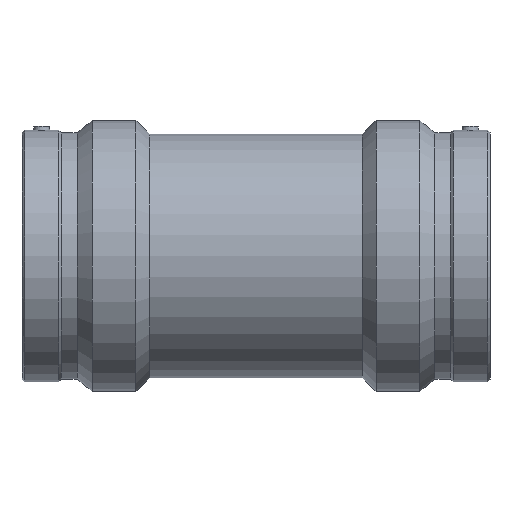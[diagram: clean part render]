
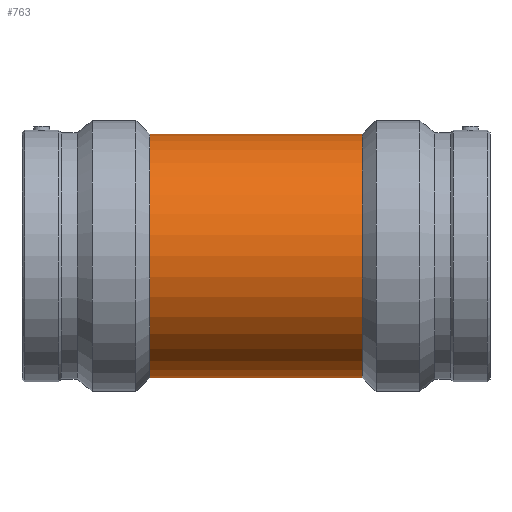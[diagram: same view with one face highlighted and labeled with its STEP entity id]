
A CAD part, top view. The second image highlights one B-rep face of the part: STEP entity #763.
In plain terms, the highlighted cylindrical face has radius 117.45 mm (diameter 234.9 mm), a full revolution.
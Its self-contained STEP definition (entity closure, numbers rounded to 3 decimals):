
#31=B_SPLINE_CURVE_WITH_KNOTS('',3,(#1275,#1276,#1277,#1278,#1279,#1280,
#1281,#1282,#1283,#1284,#1285,#1286,#1287,#1288,#1289,#1290,#1291,#1292),
 .UNSPECIFIED.,.F.,.F.,(4,2,2,2,2,2,2,2,4),(0.,1.676,3.351,
5.027,6.702,8.351,10.,11.649,
13.297),.UNSPECIFIED.);
#32=B_SPLINE_CURVE_WITH_KNOTS('',3,(#1293,#1294,#1295,#1296,#1297,#1298,
#1299,#1300,#1301,#1302,#1303,#1304,#1305,#1306,#1307,#1308,#1309,#1310,
#1311,#1312,#1313,#1314,#1315,#1316,#1317,#1318,#1319,#1320,#1321,#1322,
#1323,#1324,#1325,#1326,#1327,#1328,#1329,#1330,#1331,#1332,#1333,#1334,
#1335,#1336,#1337,#1338,#1339,#1340,#1341,#1342),.UNSPECIFIED.,.F.,.F.,
(4,2,2,2,2,2,2,2,2,2,2,2,2,2,2,2,2,2,2,2,2,2,2,2,4),(13.297,14.946,
16.595,18.243,19.892,21.568,23.243,
24.919,26.595,28.27,29.946,31.622,
33.297,34.946,36.595,38.243,39.892,
41.541,43.189,44.838,46.487,48.162,
49.838,51.514,53.189),.UNSPECIFIED.);
#45=FACE_BOUND('',#142,.T.);
#88=FACE_OUTER_BOUND('',#141,.T.);
#141=EDGE_LOOP('',(#599,#600,#601,#602,#603,#604));
#142=EDGE_LOOP('',(#605,#606));
#183=LINE('',#1515,#216);
#216=VECTOR('',#1059,117.45);
#264=CIRCLE('',#859,117.45);
#265=CIRCLE('',#860,117.45);
#266=CIRCLE('',#862,117.45);
#267=CIRCLE('',#863,117.45);
#311=VERTEX_POINT('',#1273);
#312=VERTEX_POINT('',#1274);
#343=VERTEX_POINT('',#1505);
#344=VERTEX_POINT('',#1506);
#345=VERTEX_POINT('',#1511);
#346=VERTEX_POINT('',#1512);
#392=EDGE_CURVE('',#311,#312,#31,.T.);
#393=EDGE_CURVE('',#312,#311,#32,.T.);
#437=EDGE_CURVE('',#343,#344,#264,.T.);
#438=EDGE_CURVE('',#344,#343,#265,.T.);
#440=EDGE_CURVE('',#345,#346,#266,.T.);
#441=EDGE_CURVE('',#346,#345,#267,.T.);
#442=EDGE_CURVE('',#346,#344,#183,.T.);
#599=ORIENTED_EDGE('',*,*,#440,.F.);
#600=ORIENTED_EDGE('',*,*,#441,.F.);
#601=ORIENTED_EDGE('',*,*,#442,.T.);
#602=ORIENTED_EDGE('',*,*,#438,.T.);
#603=ORIENTED_EDGE('',*,*,#437,.T.);
#604=ORIENTED_EDGE('',*,*,#442,.F.);
#605=ORIENTED_EDGE('',*,*,#392,.T.);
#606=ORIENTED_EDGE('',*,*,#393,.T.);
#729=CYLINDRICAL_SURFACE('',#861,117.45);
#763=ADVANCED_FACE('',(#88,#45),#729,.T.);
#859=AXIS2_PLACEMENT_3D('',#1507,#1048,#1049);
#860=AXIS2_PLACEMENT_3D('',#1508,#1050,#1051);
#861=AXIS2_PLACEMENT_3D('',#1510,#1053,#1054);
#862=AXIS2_PLACEMENT_3D('',#1513,#1055,#1056);
#863=AXIS2_PLACEMENT_3D('',#1514,#1057,#1058);
#1048=DIRECTION('center_axis',(1.,0.,0.));
#1049=DIRECTION('ref_axis',(0.,0.,-1.));
#1050=DIRECTION('center_axis',(1.,0.,0.));
#1051=DIRECTION('ref_axis',(0.,0.,-1.));
#1053=DIRECTION('center_axis',(1.,0.,0.));
#1054=DIRECTION('ref_axis',(0.,1.,0.));
#1055=DIRECTION('center_axis',(1.,0.,0.));
#1056=DIRECTION('ref_axis',(0.,0.,-1.));
#1057=DIRECTION('center_axis',(1.,0.,0.));
#1058=DIRECTION('ref_axis',(0.,0.,-1.));
#1059=DIRECTION('',(-1.,0.,0.));
#1273=CARTESIAN_POINT('',(0.,-84.,-82.088));
#1274=CARTESIAN_POINT('',(84.,0.,-117.45));
#1275=CARTESIAN_POINT('Ctrl Pts',(0.,-84.,-82.088));
#1276=CARTESIAN_POINT('Ctrl Pts',(5.585,-84.,-82.088));
#1277=CARTESIAN_POINT('Ctrl Pts',(11.224,-83.436,-82.676));
#1278=CARTESIAN_POINT('Ctrl Pts',(22.241,-81.197,-84.877));
#1279=CARTESIAN_POINT('Ctrl Pts',(27.621,-79.522,-86.481));
#1280=CARTESIAN_POINT('Ctrl Pts',(37.839,-75.2,-90.265));
#1281=CARTESIAN_POINT('Ctrl Pts',(42.687,-72.547,-92.442));
#1282=CARTESIAN_POINT('Ctrl Pts',(51.642,-66.471,-96.903));
#1283=CARTESIAN_POINT('Ctrl Pts',(55.749,-63.045,-99.185));
#1284=CARTESIAN_POINT('Ctrl Pts',(62.987,-55.807,-103.428));
#1285=CARTESIAN_POINT('Ctrl Pts',(66.401,-51.733,-105.556));
#1286=CARTESIAN_POINT('Ctrl Pts',(72.495,-42.777,-109.492));
#1287=CARTESIAN_POINT('Ctrl Pts',(75.175,-37.895,-111.298));
#1288=CARTESIAN_POINT('Ctrl Pts',(79.535,-27.594,-114.288));
#1289=CARTESIAN_POINT('Ctrl Pts',(81.219,-22.163,-115.475));
#1290=CARTESIAN_POINT('Ctrl Pts',(83.452,-11.114,-117.056));
#1291=CARTESIAN_POINT('Ctrl Pts',(84.,-5.496,-117.45));
#1292=CARTESIAN_POINT('Ctrl Pts',(84.,0.,-117.45));
#1293=CARTESIAN_POINT('Ctrl Pts',(84.,0.,-117.45));
#1294=CARTESIAN_POINT('Ctrl Pts',(84.,5.496,-117.45));
#1295=CARTESIAN_POINT('Ctrl Pts',(83.452,11.114,-117.056));
#1296=CARTESIAN_POINT('Ctrl Pts',(81.219,22.163,-115.475));
#1297=CARTESIAN_POINT('Ctrl Pts',(79.535,27.594,-114.288));
#1298=CARTESIAN_POINT('Ctrl Pts',(75.175,37.895,-111.298));
#1299=CARTESIAN_POINT('Ctrl Pts',(72.495,42.777,-109.492));
#1300=CARTESIAN_POINT('Ctrl Pts',(66.401,51.733,-105.556));
#1301=CARTESIAN_POINT('Ctrl Pts',(62.987,55.807,-103.428));
#1302=CARTESIAN_POINT('Ctrl Pts',(55.749,63.045,-99.185));
#1303=CARTESIAN_POINT('Ctrl Pts',(51.642,66.471,-96.903));
#1304=CARTESIAN_POINT('Ctrl Pts',(42.687,72.547,-92.442));
#1305=CARTESIAN_POINT('Ctrl Pts',(37.839,75.2,-90.265));
#1306=CARTESIAN_POINT('Ctrl Pts',(27.621,79.522,-86.481));
#1307=CARTESIAN_POINT('Ctrl Pts',(22.241,81.197,-84.877));
#1308=CARTESIAN_POINT('Ctrl Pts',(11.224,83.436,-82.676));
#1309=CARTESIAN_POINT('Ctrl Pts',(5.585,84.,-82.088));
#1310=CARTESIAN_POINT('Ctrl Pts',(-5.585,84.,-82.088));
#1311=CARTESIAN_POINT('Ctrl Pts',(-11.224,83.436,-82.676));
#1312=CARTESIAN_POINT('Ctrl Pts',(-22.241,81.197,-84.877));
#1313=CARTESIAN_POINT('Ctrl Pts',(-27.621,79.522,-86.481));
#1314=CARTESIAN_POINT('Ctrl Pts',(-37.839,75.2,-90.265));
#1315=CARTESIAN_POINT('Ctrl Pts',(-42.687,72.547,-92.442));
#1316=CARTESIAN_POINT('Ctrl Pts',(-51.642,66.471,-96.903));
#1317=CARTESIAN_POINT('Ctrl Pts',(-55.749,63.045,-99.185));
#1318=CARTESIAN_POINT('Ctrl Pts',(-62.987,55.807,-103.428));
#1319=CARTESIAN_POINT('Ctrl Pts',(-66.401,51.733,-105.556));
#1320=CARTESIAN_POINT('Ctrl Pts',(-72.495,42.777,-109.492));
#1321=CARTESIAN_POINT('Ctrl Pts',(-75.175,37.895,-111.298));
#1322=CARTESIAN_POINT('Ctrl Pts',(-79.535,27.594,-114.288));
#1323=CARTESIAN_POINT('Ctrl Pts',(-81.219,22.163,-115.475));
#1324=CARTESIAN_POINT('Ctrl Pts',(-83.452,11.114,-117.056));
#1325=CARTESIAN_POINT('Ctrl Pts',(-84.,5.496,-117.45));
#1326=CARTESIAN_POINT('Ctrl Pts',(-84.,-5.496,-117.45));
#1327=CARTESIAN_POINT('Ctrl Pts',(-83.452,-11.114,-117.056));
#1328=CARTESIAN_POINT('Ctrl Pts',(-81.219,-22.163,-115.475));
#1329=CARTESIAN_POINT('Ctrl Pts',(-79.535,-27.594,-114.288));
#1330=CARTESIAN_POINT('Ctrl Pts',(-75.175,-37.895,-111.298));
#1331=CARTESIAN_POINT('Ctrl Pts',(-72.495,-42.777,-109.492));
#1332=CARTESIAN_POINT('Ctrl Pts',(-66.401,-51.733,-105.556));
#1333=CARTESIAN_POINT('Ctrl Pts',(-62.987,-55.807,-103.428));
#1334=CARTESIAN_POINT('Ctrl Pts',(-55.749,-63.045,-99.185));
#1335=CARTESIAN_POINT('Ctrl Pts',(-51.642,-66.471,-96.903));
#1336=CARTESIAN_POINT('Ctrl Pts',(-42.687,-72.547,-92.442));
#1337=CARTESIAN_POINT('Ctrl Pts',(-37.839,-75.2,-90.265));
#1338=CARTESIAN_POINT('Ctrl Pts',(-27.621,-79.522,-86.481));
#1339=CARTESIAN_POINT('Ctrl Pts',(-22.241,-81.197,-84.877));
#1340=CARTESIAN_POINT('Ctrl Pts',(-11.224,-83.436,-82.676));
#1341=CARTESIAN_POINT('Ctrl Pts',(-5.585,-84.,-82.088));
#1342=CARTESIAN_POINT('Ctrl Pts',(0.,-84.,-82.088));
#1505=CARTESIAN_POINT('',(-102.603,117.45,0.));
#1506=CARTESIAN_POINT('',(-102.603,-117.45,0.));
#1507=CARTESIAN_POINT('Origin',(-102.603,0.,0.));
#1508=CARTESIAN_POINT('Origin',(-102.603,0.,0.));
#1510=CARTESIAN_POINT('Origin',(0.,0.,0.));
#1511=CARTESIAN_POINT('',(102.603,117.45,0.));
#1512=CARTESIAN_POINT('',(102.603,-117.45,0.));
#1513=CARTESIAN_POINT('Origin',(102.603,0.,0.));
#1514=CARTESIAN_POINT('Origin',(102.603,0.,0.));
#1515=CARTESIAN_POINT('',(0.,-117.45,0.));
